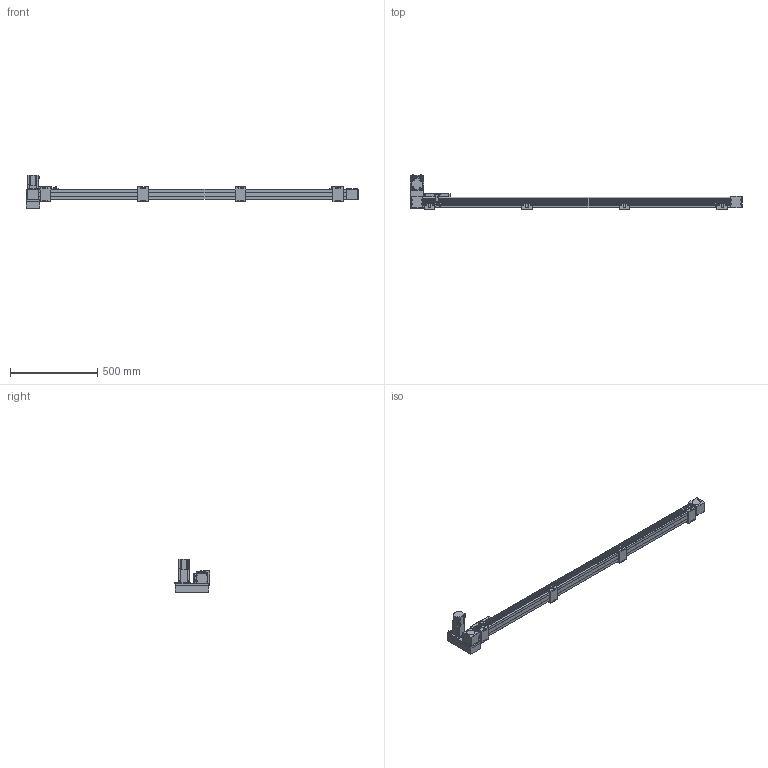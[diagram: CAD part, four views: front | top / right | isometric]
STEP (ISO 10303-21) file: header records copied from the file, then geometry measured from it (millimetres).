
FILE_DESCRIPTION(/* description */ ('STEP AP214'),/* implementation_level */ '2;1');
FILE_NAME(/* name */ 'SK60-P13-S1600-LU-T40-C1-N(0)',/* time_stamp */ '2023-04-06T04:48:07+02:00',/* author */ ('License CC BY-ND 4.0'),/* organization */ ('CADENAS'),/* preprocessor_version */ 'ST-DEVELOPER v19.3',/* originating_system */ 'PARTsolutions',/* authorisation */ ' ');
FILE_SCHEMA (('AUTOMOTIVE_DESIGN {1 0 10303 214 3 1 1}'));
Length unit declared in the file: millimetre
Products named in the file (10): SK60-P13-S1600-LU-T40-C1-N(0); PSC140-sensor; SK60-S450_seat; SK60-S450-BL-C1_slider; SK60_body3; SK60_body6; SK60-BL_body2; T40-p1; SK60-LU_fb; SK60-S1600-LU-C1_body
Assembly tree (18 placements, depth 2):
  SK60-P13-S1600-LU-T40-C1-N(0)
    PSC140-sensor  x3
    SK60-S450_seat  x4
    SK60-S450-BL-C1_slider
    SK60_body3  x3
    SK60_body6  x2
    SK60-BL_body2  x2
    T40-p1
    SK60-LU_fb
    SK60-S1600-LU-C1_body
Bounding box: 1905.5 x 201 x 189.7 mm (x, y, z)
Volume: 7692365.5 mm3; surface area: 937776.1 mm2
Topology: 18 solids, 18 shells, 898 faces, 2244 edges, 1477 vertices
Faces by surface type: plane 572, cylinder 294, cone 30, torus 2
Full cylindrical faces by diameter (mm): 2.8 x3, 3.3 x4, 4 x2, 4.5 x30, 4.6 x3, 4.917 x24, 5 x6, 5.478 x4, 5.5 x27, 6.5 x8, 7 x2, 8 x4, 8.5 x4, 9.988 x4, 10 x16, 14 x1, 47 x3, 50 x2
Entity records: 18671 total; most frequent: DIRECTION 3188, CARTESIAN_POINT 3152, ORIENTED_EDGE 2940, EDGE_CURVE 1470, AXIS2_PLACEMENT_3D 1070, LINE 1048, VECTOR 1048, VERTEX_POINT 1034
